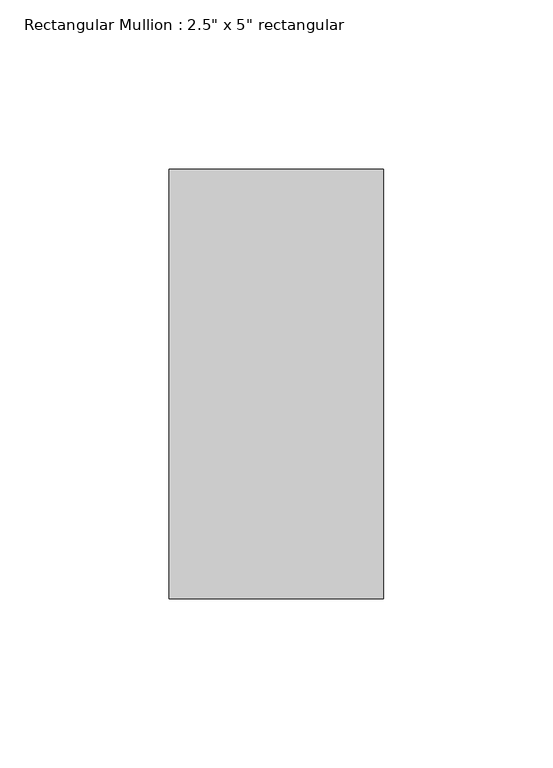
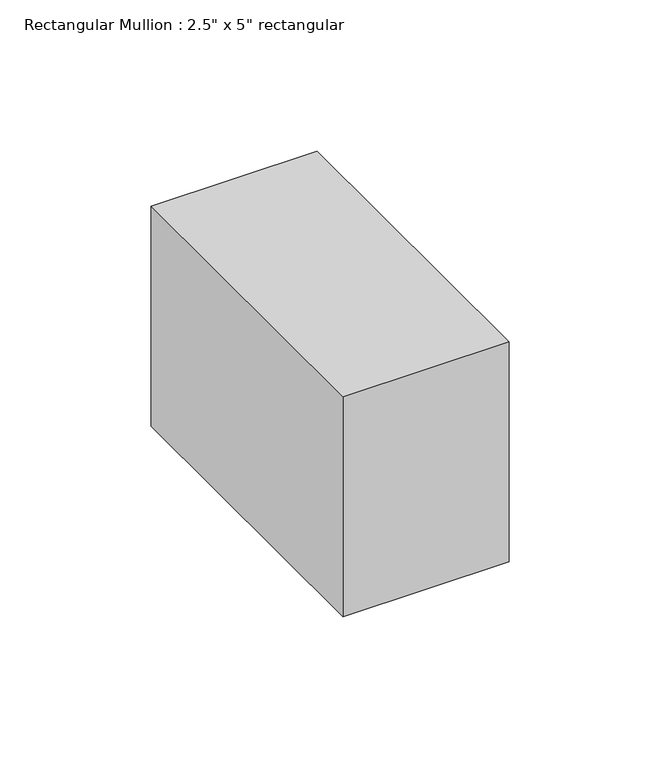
"""IFC4 building model written with IfcOpenShell, lengths in millimetres: member geometry."""

from ifc_helpers import new_model, si_unit, frame, origin, place, context, project, spatial, polyline, outline, extrude, source, transform, mapped, element, save


def member_7712ce12(model_context):
    return source(origin(), model_context, "Body", "SweptSolid", [
        extrude(outline(polyline([(0.0, 63.5), (0.0, -63.5), (-63.5, -63.5), (-63.5, 63.5), (0.0, 63.5)])), frame((0.0, 0.0, -88.9), z_axis=(0.0, 0.0, 1.0), x_axis=(1.0, 0.0, 0.0)), (0.0, 0.0, 1.0), 88.9),
    ])


if __name__ == "__main__":
    model = new_model("IFC4")
    model_context = context("Model", 3, world=origin())
    ifc_project = project(units=[si_unit("LENGTHUNIT", "METRE", prefix="MILLI")], contexts=[model_context])
    site = spatial("IfcSite", under=ifc_project)
    building = spatial("IfcBuilding", under=site)
    placement = place(None, origin())
    member_shape = member_7712ce12(model_context)
    element("IfcMember", 1, ObjectType="Rectangular Mullion : 2.5\" x 5\" rectangular", at=placement, inside=building, context=model_context, shape_type="MappedRepresentation", body=[
        mapped(member_shape, transform((0.0, 0.0, 0.0), x_axis=(1.0, 0.0, 0.0), y_axis=(0.0, 1.0, 0.0), z_axis=(0.0, 0.0, 1.0))),
    ])
    save(model, "model.ifc")
